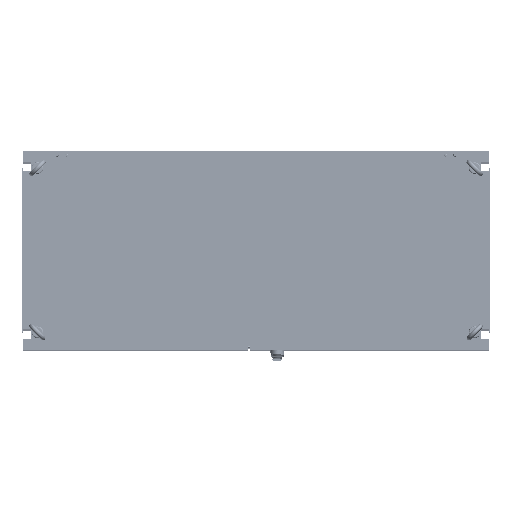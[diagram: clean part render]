
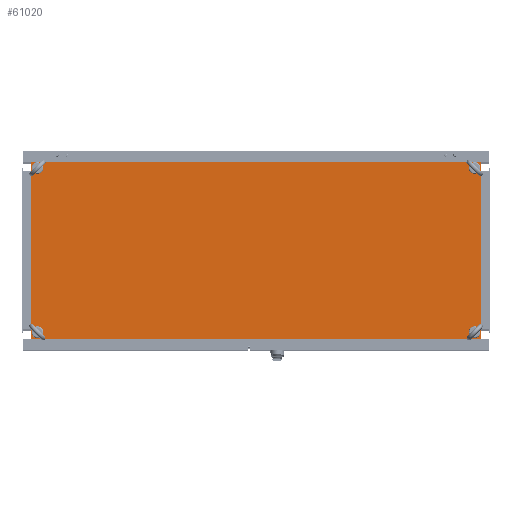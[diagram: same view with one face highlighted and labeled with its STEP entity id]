
A CAD part, top view. The second image highlights one B-rep face of the part: STEP entity #61020.
In plain terms, the highlighted planar face has unit normal (0, 0, 1).
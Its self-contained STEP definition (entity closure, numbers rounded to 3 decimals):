
#77=VERTEX_LOOP('',#34568);
#78=VERTEX_LOOP('',#34569);
#79=VERTEX_LOOP('',#34570);
#80=VERTEX_LOOP('',#34571);
#3746=PLANE('',#68165);
#5185=CIRCLE('',#68166,6.5);
#5186=CIRCLE('',#68167,6.5);
#5187=CIRCLE('',#68168,6.5);
#5188=CIRCLE('',#68169,6.5);
#20456=ORIENTED_EDGE('',*,*,#28834,.F.);
#20457=ORIENTED_EDGE('',*,*,#28835,.F.);
#20458=ORIENTED_EDGE('',*,*,#28836,.F.);
#20459=ORIENTED_EDGE('',*,*,#28837,.F.);
#20460=ORIENTED_EDGE('',*,*,#28838,.F.);
#20461=ORIENTED_EDGE('',*,*,#28839,.F.);
#20462=ORIENTED_EDGE('',*,*,#28840,.F.);
#20463=ORIENTED_EDGE('',*,*,#28841,.F.);
#28834=EDGE_CURVE('',#34564,#34564,#5185,.T.);
#28835=EDGE_CURVE('',#34565,#34565,#5186,.T.);
#28836=EDGE_CURVE('',#34566,#34566,#5187,.T.);
#28837=EDGE_CURVE('',#34567,#34567,#5188,.T.);
#28838=EDGE_CURVE('',#34572,#34573,#40885,.T.);
#28839=EDGE_CURVE('',#34574,#34572,#40886,.T.);
#28840=EDGE_CURVE('',#34575,#34574,#40887,.T.);
#28841=EDGE_CURVE('',#34573,#34575,#40888,.T.);
#34564=VERTEX_POINT('',#101632);
#34565=VERTEX_POINT('',#101634);
#34566=VERTEX_POINT('',#101636);
#34567=VERTEX_POINT('',#101638);
#34568=VERTEX_POINT('',#101639);
#34569=VERTEX_POINT('',#101640);
#34570=VERTEX_POINT('',#101641);
#34571=VERTEX_POINT('',#101642);
#34572=VERTEX_POINT('',#101644);
#34573=VERTEX_POINT('',#101645);
#34574=VERTEX_POINT('',#101647);
#34575=VERTEX_POINT('',#101649);
#40885=LINE('',#101643,#47109);
#40886=LINE('',#101646,#47110);
#40887=LINE('',#101648,#47111);
#40888=LINE('',#101650,#47112);
#47109=VECTOR('',#83285,1000.);
#47110=VECTOR('',#83286,1000.);
#47111=VECTOR('',#83287,1000.);
#47112=VECTOR('',#83288,1000.);
#52088=EDGE_LOOP('',(#20456));
#52089=EDGE_LOOP('',(#20457));
#52090=EDGE_LOOP('',(#20458));
#52091=EDGE_LOOP('',(#20459));
#52092=EDGE_LOOP('',(#20460,#20461,#20462,#20463));
#57180=FACE_BOUND('',#52088,.T.);
#57181=FACE_BOUND('',#52089,.T.);
#57182=FACE_BOUND('',#52090,.T.);
#57183=FACE_BOUND('',#52091,.T.);
#57184=FACE_BOUND('',#77,.T.);
#57185=FACE_BOUND('',#78,.T.);
#57186=FACE_BOUND('',#79,.T.);
#57187=FACE_BOUND('',#80,.T.);
#57188=FACE_BOUND('',#52092,.T.);
#61020=ADVANCED_FACE('',(#57180,#57181,#57182,#57183,#57184,#57185,#57186,
#57187,#57188),#3746,.F.);
#68165=AXIS2_PLACEMENT_3D('',#101630,#83275,#83276);
#68166=AXIS2_PLACEMENT_3D('',#101631,#83277,#83278);
#68167=AXIS2_PLACEMENT_3D('',#101633,#83279,#83280);
#68168=AXIS2_PLACEMENT_3D('',#101635,#83281,#83282);
#68169=AXIS2_PLACEMENT_3D('',#101637,#83283,#83284);
#83275=DIRECTION('',(0.,0.,-1.));
#83276=DIRECTION('',(-1.,0.,0.));
#83277=DIRECTION('',(0.,0.,1.));
#83278=DIRECTION('',(1.,0.,0.));
#83279=DIRECTION('',(0.,0.,1.));
#83280=DIRECTION('',(1.,0.,0.));
#83281=DIRECTION('',(0.,0.,1.));
#83282=DIRECTION('',(1.,0.,0.));
#83283=DIRECTION('',(0.,0.,1.));
#83284=DIRECTION('',(1.,0.,0.));
#83285=DIRECTION('',(0.,1.,0.));
#83286=DIRECTION('',(-1.,0.,0.));
#83287=DIRECTION('',(0.,-1.,0.));
#83288=DIRECTION('',(1.,0.,0.));
#101630=CARTESIAN_POINT('',(0.,0.,0.));
#101631=CARTESIAN_POINT('',(560.5,210.5,0.));
#101632=CARTESIAN_POINT('',(567.,210.5,0.));
#101633=CARTESIAN_POINT('',(-560.5,210.5,0.));
#101634=CARTESIAN_POINT('',(-554.,210.5,0.));
#101635=CARTESIAN_POINT('',(560.5,-210.5,0.));
#101636=CARTESIAN_POINT('',(567.,-210.5,0.));
#101637=CARTESIAN_POINT('',(-560.5,-210.5,0.));
#101638=CARTESIAN_POINT('',(-554.,-210.5,0.));
#101639=CARTESIAN_POINT('',(-574.2,-224.201,0.));
#101640=CARTESIAN_POINT('',(574.2,224.201,0.));
#101641=CARTESIAN_POINT('',(574.201,-224.201,0.));
#101642=CARTESIAN_POINT('',(-574.201,224.201,0.));
#101643=CARTESIAN_POINT('',(-577.,-227.,0.));
#101644=CARTESIAN_POINT('',(-577.,-227.,0.));
#101645=CARTESIAN_POINT('',(-577.,227.,0.));
#101646=CARTESIAN_POINT('',(577.,-227.,0.));
#101647=CARTESIAN_POINT('',(577.,-227.,0.));
#101648=CARTESIAN_POINT('',(577.,227.,0.));
#101649=CARTESIAN_POINT('',(577.,227.,0.));
#101650=CARTESIAN_POINT('',(-577.,227.,0.));
